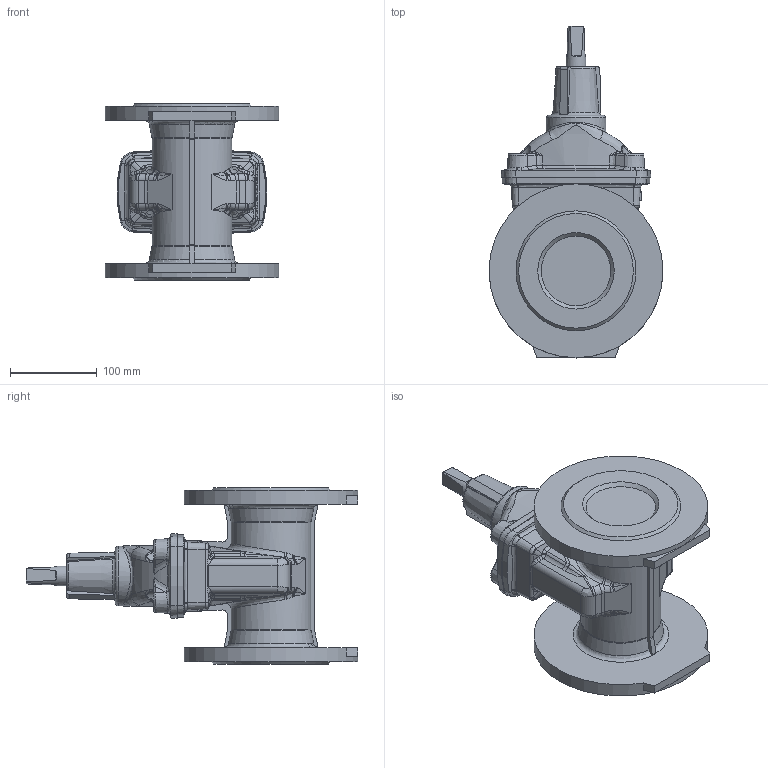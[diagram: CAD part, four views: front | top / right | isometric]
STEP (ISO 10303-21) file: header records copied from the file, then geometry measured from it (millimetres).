
FILE_DESCRIPTION (( 'STEP AP203' ), '1' );
FILE_NAME ('O_02_20_DN80_XXXXX9.STEP', '2014-07-14T07:25:43', ( '' ), ( '' ), 'SwSTEP 2.0', 'SolidWorks 2012', '' );
FILE_SCHEMA (( 'CONFIG_CONTROL_DESIGN' ));
Length unit declared in the file: millimetre
Products named in the file (1): O_02_20_DN80_XXXXX9
Bounding box: 200 x 381.85 x 203 mm (x, y, z)
Volume: 3771612.5 mm3; surface area: 266665.3 mm2
Topology: 1 solids, 1 shells, 631 faces, 1566 edges, 934 vertices
Faces by surface type: bspline 300, plane 155, cylinder 85, cone 67, torus 24
Full cylindrical faces by diameter (mm): 23 x1, 69 x1, 200 x2
Entity records: 29594 total; most frequent: CARTESIAN_POINT 17213, ORIENTED_EDGE 3038, DIRECTION 1900, EDGE_CURVE 1519, VERTEX_POINT 926, AXIS2_PLACEMENT_3D 728, EDGE_LOOP 667, FACE_OUTER_BOUND 641
